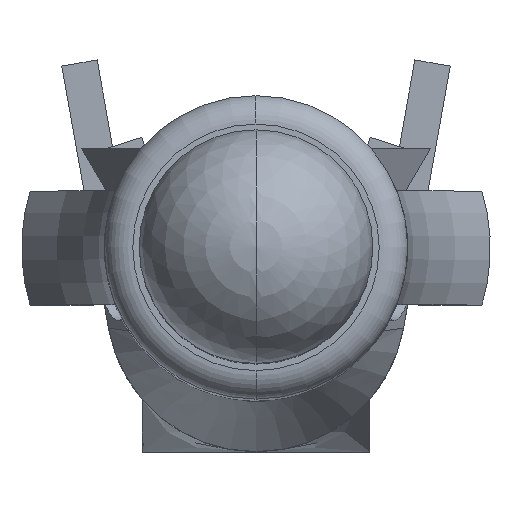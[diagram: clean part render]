
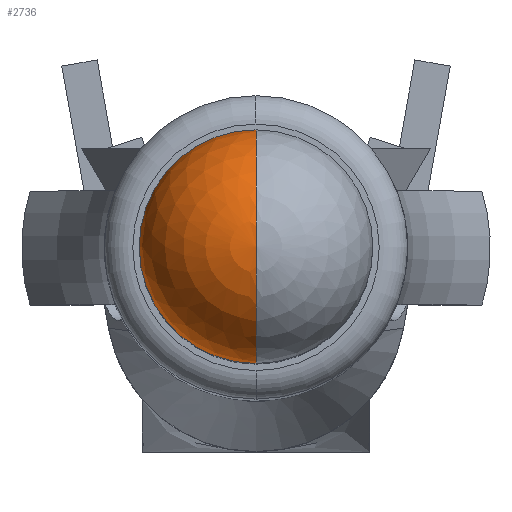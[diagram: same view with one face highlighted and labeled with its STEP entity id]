
A CAD part, top view. The second image highlights one B-rep face of the part: STEP entity #2736.
In plain terms, the highlighted spherical face has radius 1.041 mm.
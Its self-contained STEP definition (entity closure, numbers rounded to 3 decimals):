
#827=CARTESIAN_POINT('',(0.,1.353,-1.041));
#828=DIRECTION('',(0.,0.,-1.));
#829=DIRECTION('',(0.,-1.,0.));
#830=AXIS2_PLACEMENT_3D('',#827,#828,#829);
#832=CARTESIAN_POINT('',(0.,1.353,-1.041));
#833=DIRECTION('',(1.,0.,0.));
#834=DIRECTION('',(0.,0.,1.));
#835=AXIS2_PLACEMENT_3D('',#832,#833,#834);
#837=CARTESIAN_POINT('',(0.,1.353,-1.041));
#838=DIRECTION('',(-1.,0.,0.));
#839=DIRECTION('',(0.,0.,1.));
#840=AXIS2_PLACEMENT_3D('',#837,#838,#839);
#962=CARTESIAN_POINT('',(0.,0.311,-1.041));
#964=VERTEX_POINT('',#962);
#966=CARTESIAN_POINT('',(0.,2.394,-1.041));
#968=VERTEX_POINT('',#966);
#970=CARTESIAN_POINT('',(0.,1.353,0.));
#971=VERTEX_POINT('',#970);
#2724=CARTESIAN_POINT('',(0.,1.353,-1.041));
#2725=DIRECTION('',(0.,0.,1.));
#2726=DIRECTION('',(0.,1.,0.));
#2727=AXIS2_PLACEMENT_3D('',#2724,#2725,#2726);
#2728=SPHERICAL_SURFACE('',#2727,1.041);
#2730=ORIENTED_EDGE('',*,*,#2729,.T.);
#2731=ORIENTED_EDGE('',*,*,#2719,.T.);
#2733=ORIENTED_EDGE('',*,*,#2732,.F.);
#2734=EDGE_LOOP('',(#2730,#2731,#2733));
#2735=FACE_OUTER_BOUND('',#2734,.F.);
#831=CIRCLE('',#830,1.041);
#836=CIRCLE('',#835,1.041);
#841=CIRCLE('',#840,1.041);
#2719=EDGE_CURVE('',#964,#968,#831,.T.);
#2729=EDGE_CURVE('',#971,#964,#836,.T.);
#2732=EDGE_CURVE('',#971,#968,#841,.T.);
#2736=ADVANCED_FACE('',(#2735),#2728,.T.);
